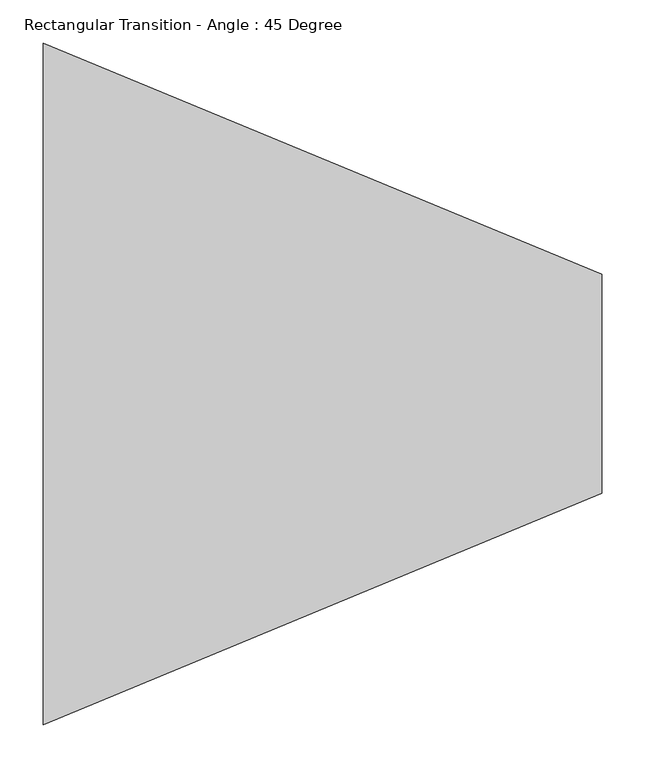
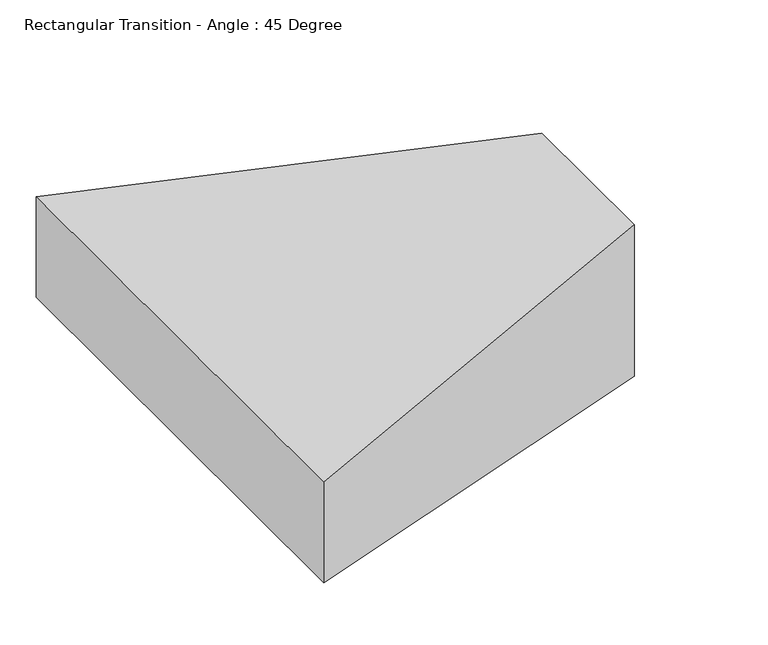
"""IFC4 building model written with IfcOpenShell, lengths in millimetres: duct fitting geometry, Rectangular Transition - Angle : 45 Degree."""

from ifc_helpers import new_model, si_unit, origin, place, context, project, spatial, faceted_brep, source, transform, mapped, element, save


def rectangular_transition_angle_45_degree_29acac8a(model_context):
    return source(origin(), model_context, "Body", "Brep", [
        faceted_brep([(647.7033211, -127.0, 127.0), (647.7033211, -127.0, -127.0), (647.7033211, 127.0, -127.0), (647.7033211, 127.0, 127.0), (0.0, -395.2875, 84.5), (0.0, 395.2875, 84.5), (0.0, 395.2875, -84.5), (0.0, -395.2875, -84.5)], [[[0, 1, 2, 3]], [[4, 5, 6, 7]], [[4, 7, 1, 0]], [[7, 6, 2, 1]], [[6, 5, 3, 2]], [[5, 4, 0, 3]]]),
    ])


if __name__ == "__main__":
    model = new_model("IFC4")
    model_context = context("Model", 3, world=origin())
    ifc_project = project(units=[si_unit("LENGTHUNIT", "METRE", prefix="MILLI")], contexts=[model_context])
    site = spatial("IfcSite", under=ifc_project)
    building = spatial("IfcBuilding", under=site)
    placement = place(None, origin())
    rectangular_transition_angle_45_degree_shape = rectangular_transition_angle_45_degree_29acac8a(model_context)
    element("IfcDuctFitting", 1, ObjectType="Rectangular Transition - Angle : 45 Degree", at=placement, inside=building, context=model_context, shape_type="MappedRepresentation", body=[
        mapped(rectangular_transition_angle_45_degree_shape, transform((0.0, 0.0, 0.0), x_axis=(1.0, 0.0, 0.0), y_axis=(0.0, 1.0, 0.0), z_axis=(0.0, 0.0, 1.0))),
    ])
    save(model, "model.ifc")
